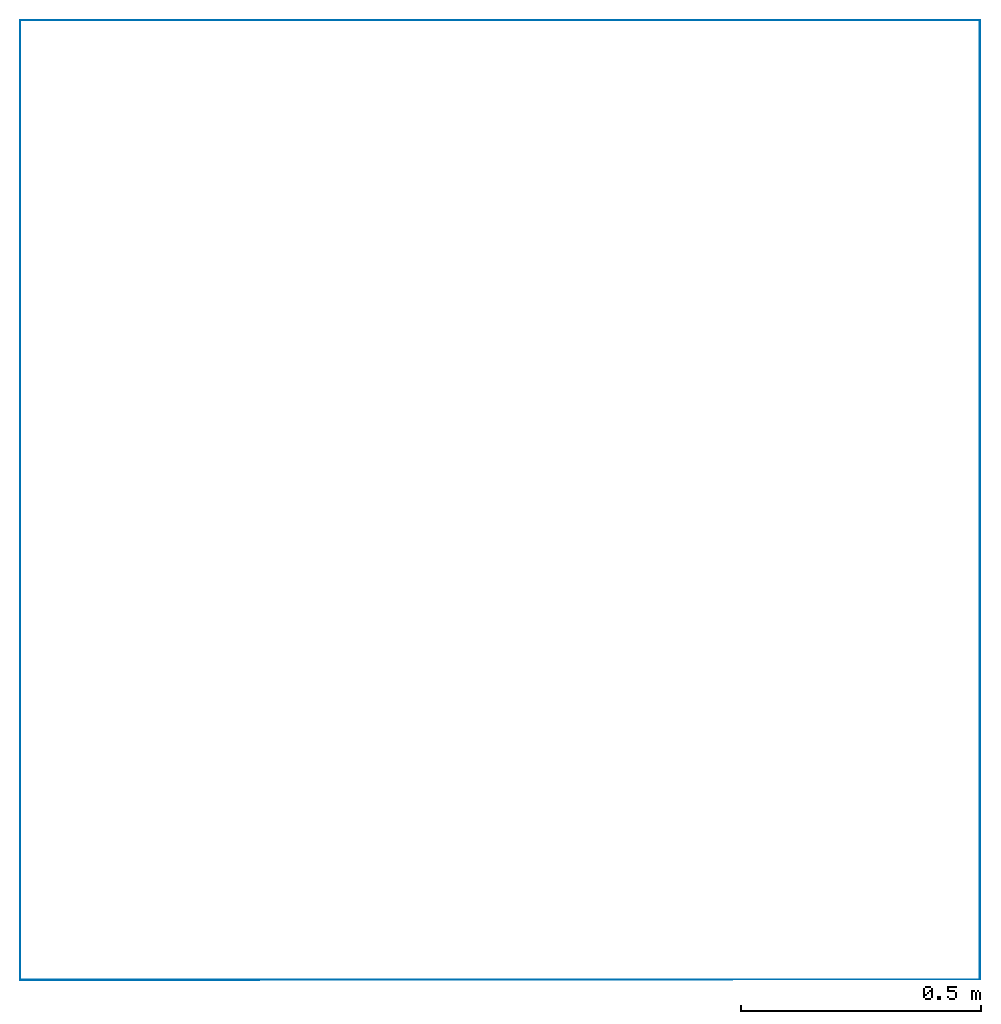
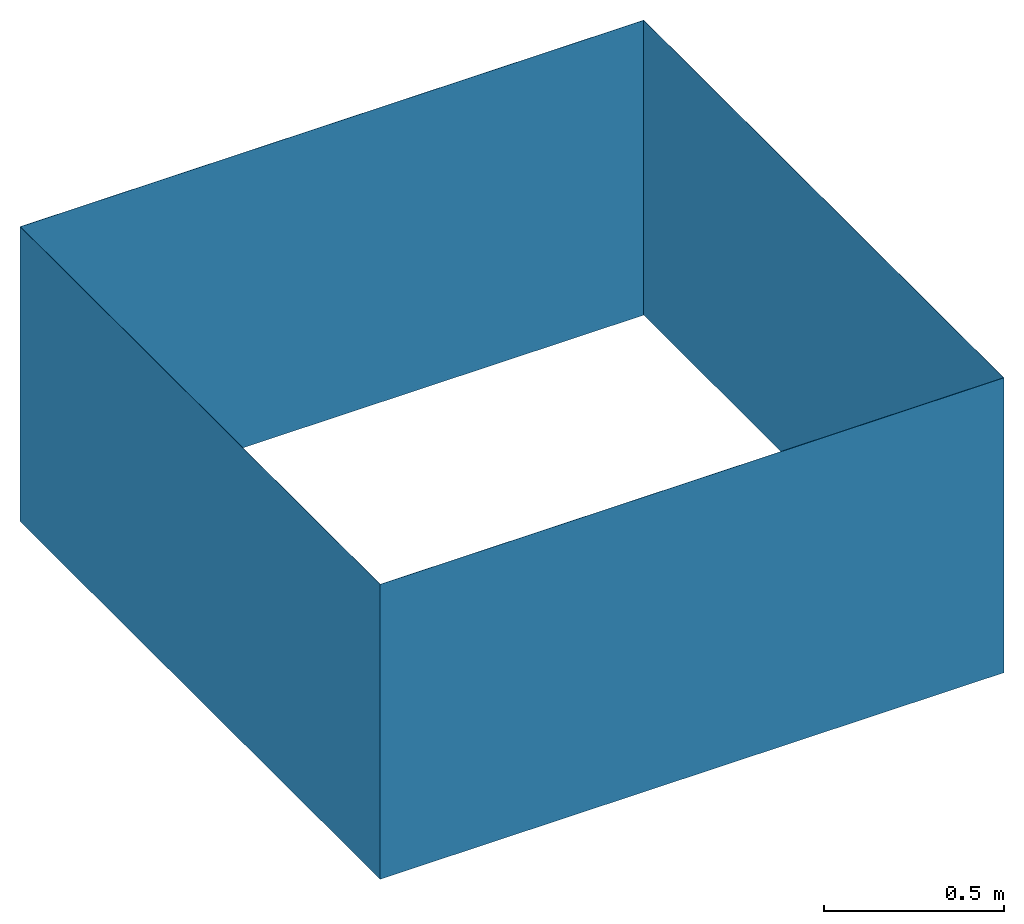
# One storey: 4 walls.
"""IFC4 building model written with IfcOpenShell, lengths in millimetres."""

from ifc_helpers import new_model, entity, si_unit, converted_unit, derived_unit, direction, frame, origin_with_axes, place, context, subcontext, project, spatial, polygons, material, type_object, element, save


model = new_model("IFC4")

# Units and contexts
model_context = context("Model", 3, precision=0.01, world=origin_with_axes(), true_north=direction((0.0, 1.0)))
body_context = subcontext(model_context, "Body", "Model", "MODEL_VIEW")
ifc_project = project(units=[si_unit("LENGTHUNIT", "METRE", prefix="MILLI"), si_unit("AREAUNIT", "SQUARE_METRE"), si_unit("VOLUMEUNIT", "CUBIC_METRE"), converted_unit("PLANEANGLEUNIT", "DEGREE", entity("IfcPlaneAngleMeasure", 0.0174532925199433), si_unit("PLANEANGLEUNIT", "RADIAN"), dimensions=[0, 0, 0, 0, 0, 0, 0]), converted_unit("TIMEUNIT", "Year", entity("IfcTimeMeasure", 31556926.0), si_unit("TIMEUNIT", "SECOND"), dimensions=[0, 0, 1, 0, 0, 0, 0]), si_unit("MASSUNIT", "GRAM", prefix="KILO"), si_unit("THERMODYNAMICTEMPERATUREUNIT", "DEGREE_CELSIUS"), si_unit("LUMINOUSINTENSITYUNIT", "LUMEN"), si_unit("ENERGYUNIT", "JOULE", prefix="MEGA"), derived_unit("THERMALCONDUCTANCEUNIT", [(si_unit("POWERUNIT", "WATT"), 1), (si_unit("LENGTHUNIT", "METRE"), -1), (si_unit("THERMODYNAMICTEMPERATUREUNIT", "KELVIN"), -1)]), derived_unit("SPECIFICHEATCAPACITYUNIT", [(si_unit("ENERGYUNIT", "JOULE"), 1), (si_unit("MASSUNIT", "GRAM", prefix="KILO"), -1), (si_unit("THERMODYNAMICTEMPERATUREUNIT", "KELVIN"), -1)]), derived_unit("MASSDENSITYUNIT", [(si_unit("MASSUNIT", "GRAM", prefix="KILO"), 1), (si_unit("VOLUMEUNIT", "CUBIC_METRE"), -1)])], contexts=[model_context])

# Site, building, storey
site_placement = place(None, origin_with_axes())
site = spatial("IfcSite", under=ifc_project, at=site_placement, Name="Site", CompositionType="ELEMENT")
building_placement = place(site_placement, origin_with_axes())
building = spatial("IfcBuilding", under=site, at=building_placement, Name="Building", CompositionType="ELEMENT")
storey_placement = place(building_placement, origin_with_axes())
storey = spatial("IfcBuildingStorey", under=building, at=storey_placement, Name="Ground Floor", CompositionType="ELEMENT", Elevation=0.0)

# Walls
ifc_material = material(Name="GENERIC - STRUCTURAL")
wall_type = type_object("IfcWallType", Name="GENERIC - STRUCTURAL 1", PredefinedType="PARAPET")
wall_1_placement = place(storey_placement, frame((430.225360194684, 4913.150291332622, 0.0), z_axis=(0.0, 0.0, 1.0), x_axis=(0.0, -1.0, 0.0)))
element("IfcWall", 1, at=wall_1_placement, inside=storey, type_object=wall_type, material=ifc_material, Name="PERIMETER", PredefinedType="PARAPET", context=body_context, shape_type="Tessellation", body=[
    polygons([(1999.499999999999, 0.4999999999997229, 0.0), (1999.499999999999, -0.500000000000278, 0.0), (0.4999999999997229, -0.5000000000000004, 0.0), (0.4999999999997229, 0.5000000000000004, 0.0), (1999.499999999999, 0.4999999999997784, 1000.0), (1999.499999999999, -0.5000000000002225, 1000.0), (0.4999999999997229, -0.4999999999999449, 1000.0), (0.4999999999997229, 0.500000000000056, 1000.0)], [[[1, 2, 3, 4]], [[2, 1, 5, 6]], [[2, 6, 7, 3]], [[8, 4, 3, 7]], [[5, 1, 4, 8]], [[6, 5, 8, 7]]], closed=True),
])
wall_2_placement = place(storey_placement, frame((430.225360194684, 2913.150291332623, 0.0), z_axis=(0.0, 0.0, 1.0), x_axis=(1.0, 0.0, 0.0)))
element("IfcWall", 2, at=wall_2_placement, inside=storey, type_object=wall_type, material=ifc_material, Name="PERIMETER", PredefinedType="PARAPET", context=body_context, shape_type="Tessellation", body=[
    polygons([(2000.500000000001, 0.500000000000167, 0.0), (2000.500000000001, -0.4999999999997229, 0.0), (-0.4999999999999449, -0.500000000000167, 0.0), (-0.4999999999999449, 0.500000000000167, 0.0), (2000.500000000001, 0.500000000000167, 1000.0), (2000.500000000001, -0.4999999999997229, 1000.0), (-0.4999999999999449, -0.4999999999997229, 1000.0), (-0.4999999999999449, 0.500000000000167, 1000.0)], [[[1, 2, 3, 4]], [[2, 1, 5, 6]], [[2, 6, 7, 3]], [[8, 4, 3, 7]], [[5, 1, 4, 8]], [[6, 5, 8, 7]]], closed=True),
])
wall_3_placement = place(storey_placement, frame((2430.225360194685, 4913.150291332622, 0.0), z_axis=(0.0, 0.0, 1.0), x_axis=(-1.0, 0.0, 0.0)))
element("IfcWall", 3, at=wall_3_placement, inside=storey, type_object=wall_type, material=ifc_material, Name="PERIMETER", PredefinedType="PARAPET", context=body_context, shape_type="Tessellation", body=[
    polygons([(2000.500000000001, 0.4999999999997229, 0.0), (2000.500000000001, -0.4999999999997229, 0.0), (0.500000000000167, -0.4999999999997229, 0.0), (0.500000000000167, 0.4999999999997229, 0.0), (2000.500000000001, 0.4999999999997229, 1000.0), (2000.500000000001, -0.4999999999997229, 1000.0), (0.500000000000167, -0.4999999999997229, 1000.0), (0.500000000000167, 0.4999999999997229, 1000.0)], [[[1, 2, 3, 4]], [[2, 1, 5, 6]], [[2, 6, 7, 3]], [[8, 4, 3, 7]], [[5, 1, 4, 8]], [[6, 5, 8, 7]]], closed=True),
])
wall_4_placement = place(storey_placement, frame((2430.225360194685, 2913.150291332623, 0.0), z_axis=(0.0, 0.0, 1.0), x_axis=(0.0, 1.0, 0.0)))
element("IfcWall", 4, at=wall_4_placement, inside=storey, type_object=wall_type, material=ifc_material, Name="PERIMETER", PredefinedType="PARAPET", context=body_context, shape_type="Tessellation", body=[
    polygons([(2000.499999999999, 0.500000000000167, 0.0), (2000.499999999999, -0.500000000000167, 0.0), (0.500000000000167, -0.500000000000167, 0.0), (0.500000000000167, 0.500000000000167, 0.0), (2000.499999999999, 0.500000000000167, 1000.0), (2000.499999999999, -0.4999999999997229, 1000.0), (0.500000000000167, -0.4999999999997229, 1000.0), (0.500000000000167, 0.500000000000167, 1000.0)], [[[1, 2, 3, 4]], [[2, 1, 5, 6]], [[2, 6, 7, 3]], [[8, 4, 3, 7]], [[5, 1, 4, 8]], [[6, 5, 8, 7]]], closed=True),
])

save(model, "model.ifc")
